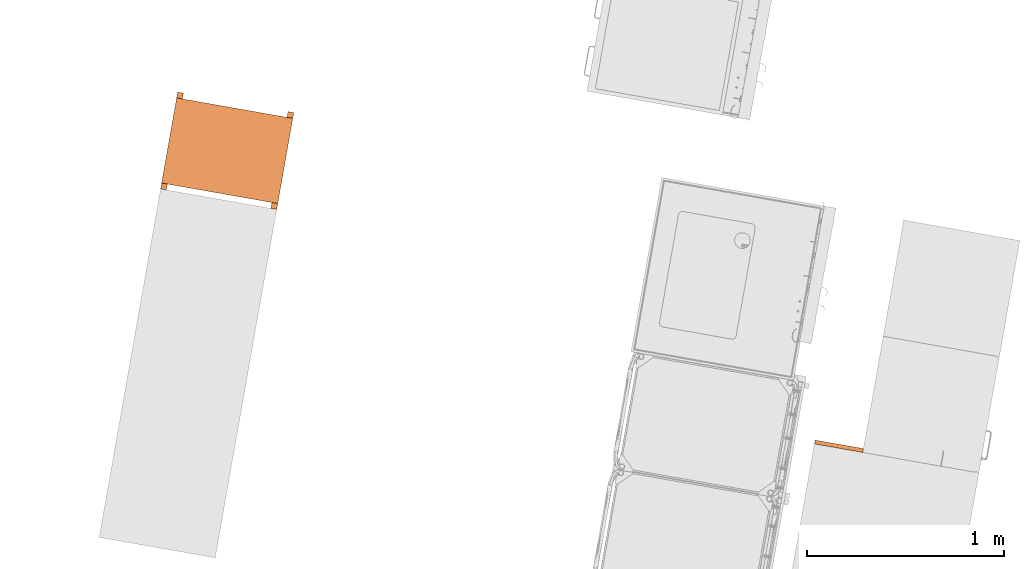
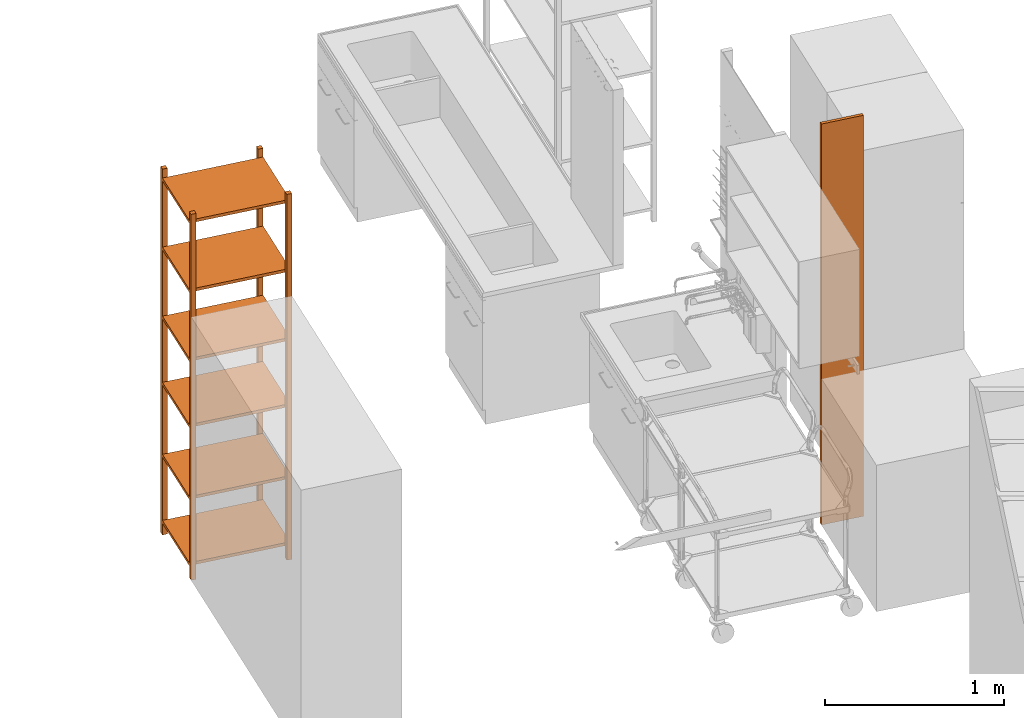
# One storey, part 16 of 32: 2 proxies.
"""IFC2X3 building model written with IfcOpenShell, lengths in metres."""

from ifc_helpers import new_model, entity, si_unit, converted_unit, derived_unit, direction, frame, frame_2d, origin, origin_2d_with_axis, place, context, subcontext, project, spatial, rectangle, extrude, source, transform, mapped, material, material_list, type_object, type_shapes, element, save


model = new_model("IFC2X3")

# Units and contexts
model_context = context("Model", 3, precision=1e-05, world=origin(), true_north=direction((6.12303176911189e-17, 1.0)))
body_context = subcontext(model_context, "Body", "Model", "MODEL_VIEW")
ifc_project = project(units=[si_unit("LENGTHUNIT", "METRE"), si_unit("AREAUNIT", "SQUARE_METRE"), si_unit("VOLUMEUNIT", "CUBIC_METRE"), converted_unit("PLANEANGLEUNIT", "DEGREE", entity("IfcRatioMeasure", 0.0174532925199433), si_unit("PLANEANGLEUNIT", "RADIAN"), dimensions=[0, 0, 0, 0, 0, 0, 0]), si_unit("MASSUNIT", "GRAM", prefix="KILO"), derived_unit("MASSDENSITYUNIT", [(si_unit("MASSUNIT", "GRAM", prefix="KILO"), 1), (si_unit("LENGTHUNIT", "METRE"), -3)]), derived_unit("MOMENTOFINERTIAUNIT", [(si_unit("LENGTHUNIT", "METRE"), 4)]), si_unit("TIMEUNIT", "SECOND"), si_unit("FREQUENCYUNIT", "HERTZ"), si_unit("THERMODYNAMICTEMPERATUREUNIT", "DEGREE_CELSIUS"), derived_unit("THERMALTRANSMITTANCEUNIT", [(si_unit("MASSUNIT", "GRAM", prefix="KILO"), 1), (si_unit("THERMODYNAMICTEMPERATUREUNIT", "KELVIN"), -1), (si_unit("TIMEUNIT", "SECOND"), -3)]), derived_unit("VOLUMETRICFLOWRATEUNIT", [(si_unit("LENGTHUNIT", "METRE"), 3), (si_unit("TIMEUNIT", "SECOND"), -1)]), si_unit("ELECTRICCURRENTUNIT", "AMPERE"), si_unit("ELECTRICVOLTAGEUNIT", "VOLT"), si_unit("POWERUNIT", "WATT"), si_unit("FORCEUNIT", "NEWTON", prefix="KILO"), si_unit("ILLUMINANCEUNIT", "LUX"), si_unit("LUMINOUSFLUXUNIT", "LUMEN"), si_unit("LUMINOUSINTENSITYUNIT", "CANDELA"), derived_unit("USERDEFINED", [(si_unit("MASSUNIT", "GRAM", prefix="KILO"), -1), (si_unit("LENGTHUNIT", "METRE"), -2), (si_unit("TIMEUNIT", "SECOND"), 3), (si_unit("LUMINOUSFLUXUNIT", "LUMEN"), 1)]), derived_unit("LINEARVELOCITYUNIT", [(si_unit("LENGTHUNIT", "METRE"), 1), (si_unit("TIMEUNIT", "SECOND"), -1)]), si_unit("PRESSUREUNIT", "PASCAL"), derived_unit("USERDEFINED", [(si_unit("LENGTHUNIT", "METRE"), -2), (si_unit("MASSUNIT", "GRAM", prefix="KILO"), 1), (si_unit("TIMEUNIT", "SECOND"), -2)]), derived_unit("LINEARFORCEUNIT", [(si_unit("MASSUNIT", "GRAM", prefix="KILO"), 1), (si_unit("LENGTHUNIT", "METRE"), 1), (si_unit("TIMEUNIT", "SECOND"), -2), (si_unit("LENGTHUNIT", "METRE"), -1)]), derived_unit("PLANARFORCEUNIT", [(si_unit("MASSUNIT", "GRAM", prefix="KILO"), 1), (si_unit("LENGTHUNIT", "METRE"), 1), (si_unit("TIMEUNIT", "SECOND"), -2), (si_unit("LENGTHUNIT", "METRE"), -2)])], contexts=[model_context])

# Site, building, storey
site_placement = place(None, origin())
site = spatial("IfcSite", under=ifc_project, at=site_placement, Name="Default", CompositionType="ELEMENT")
building_placement = place(site_placement, origin())
building = spatial("IfcBuilding", under=site, at=building_placement, CompositionType="ELEMENT")
storey_placement = place(building_placement, origin())
storey = spatial("IfcBuildingStorey", under=building, at=storey_placement, Name="00 EG", CompositionType="ELEMENT", Elevation=0.0)

# Proxies
ifc_material_1 = material(Name="dh_Weiß")
building_element_proxy_type_1 = type_object("IfcBuildingElementProxyType", Name="dh_Blende:dh_Blende", PredefinedType="NOTDEFINED", material=ifc_material_1)
shared_shape_1 = source(origin(), body_context, "Body", "SweptSolid", [
    extrude(rectangle(XDim=0.250000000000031, YDim=0.02, at=origin_2d_with_axis()), frame((0.0, -0.00999999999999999, 0.0), z_axis=(0.0, 0.0, 1.0), x_axis=(-1.0, 0.0, 0.0)), (0.0, 0.0, 1.0), 2.74),
])
type_shapes(building_element_proxy_type_1, [shared_shape_1])
proxy_1_placement = place(storey_placement, frame((27.5660998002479, 17.3435446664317, 0.0), z_axis=(0.0, 0.0, 1.0), x_axis=(0.984807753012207, -0.173648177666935, 0.0)))
element("IfcBuildingElementProxy", 1, at=proxy_1_placement, inside=storey, type_object=building_element_proxy_type_1, material=ifc_material_1, Name="dh_Blende:dh_Blende", ObjectType="dh_Blende:dh_Blende", context=body_context, shape_type="MappedRepresentation", body=[
    mapped(shared_shape_1, transform((0.0, 0.0, 0.0), scale=1.0)),
])
ifc_material_2 = material(Name="Aluminium")
ifc_material_3 = material(Name="UHMW, schwarz")
ifc_material_list_1 = material_list([ifc_material_2, ifc_material_3])
ifc_material_list_2 = material_list([ifc_material_3, ifc_material_2])
building_element_proxy_type_2 = type_object("IfcBuildingElementProxyType", Name="dh_Stahlregal:Stahlregal-FB6-60", PredefinedType="NOTDEFINED", material=ifc_material_list_2)
shared_shape_2 = source(origin(), body_context, "Body", "SweptSolid", [
    extrude(rectangle(XDim=0.44, YDim=0.599999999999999, at=origin_2d_with_axis()), frame((0.0, -0.25, 0.0800000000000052), z_axis=(0.0, 0.0, 1.0), x_axis=(0.0, 1.0, 0.0)), (0.0, 0.0, 1.0), 0.0199999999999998),
    extrude(rectangle(XDim=0.44, YDim=0.599999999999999, at=origin_2d_with_axis()), frame((0.0, -0.25, 0.531999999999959), z_axis=(0.0, 0.0, 1.0), x_axis=(0.0, 1.0, 0.0)), (0.0, 0.0, 1.0), 0.0199999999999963),
    extrude(rectangle(XDim=0.44, YDim=0.599999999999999, at=origin_2d_with_axis()), frame((0.0, -0.25, 1.02399999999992), z_axis=(0.0, 0.0, 1.0), x_axis=(0.0, 1.0, 0.0)), (0.0, 0.0, 1.0), 0.0199999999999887),
    extrude(rectangle(XDim=0.44, YDim=0.599999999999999, at=origin_2d_with_axis()), frame((0.0, -0.25, 1.47599999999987), z_axis=(0.0, 0.0, 1.0), x_axis=(0.0, 1.0, 0.0)), (0.0, 0.0, 1.0), 0.0200000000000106),
    extrude(rectangle(XDim=0.44, YDim=0.599999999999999, at=origin_2d_with_axis()), frame((0.0, -0.25, 1.94799999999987), z_axis=(0.0, 0.0, 1.0), x_axis=(0.0, 1.0, 0.0)), (0.0, 0.0, 1.0), 0.020000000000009),
    extrude(rectangle(XDim=0.44, YDim=0.6, at=origin_2d_with_axis()), frame((0.0, -0.25, 2.4199999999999), z_axis=(0.0, 0.0, 1.0), x_axis=(0.0, 1.0, 0.0)), (0.0, 0.0, 1.0), 0.0199999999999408),
    extrude(rectangle(XDim=0.0299999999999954, YDim=0.0299999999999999, at=frame_2d((1.73472347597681e-17, 0.0), x_axis=(1.0, 0.0))), frame((-0.285000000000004, -0.485, 2.49499999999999)), (0.0, 0.0, 1.0), 0.00500000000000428),
    extrude(rectangle(XDim=0.0300000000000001, YDim=0.030000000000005, at=origin_2d_with_axis()), frame((0.284999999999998, -0.015, 2.49499999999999), z_axis=(0.0, 0.0, 1.0), x_axis=(0.0, 1.0, 0.0)), (0.0, 0.0, 1.0), 0.00500000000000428),
    extrude(rectangle(XDim=0.0299999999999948, YDim=0.03, at=frame_2d((1.73472347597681e-17, 0.0), x_axis=(1.0, 0.0))), frame((-0.285000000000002, -0.015, 2.49499999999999)), (0.0, 0.0, 1.0), 0.00500000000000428),
    extrude(rectangle(XDim=0.0300000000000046, YDim=0.0299999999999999, at=origin_2d_with_axis()), frame((0.284999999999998, -0.485, 2.49499999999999)), (0.0, 0.0, 1.0), 0.00500000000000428),
    extrude(rectangle(XDim=0.03, YDim=0.0299999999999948, at=frame_2d((0.0, -1.73472347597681e-17), x_axis=(1.0, 0.0))), frame((-0.285000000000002, -0.015, 0.00499999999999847), z_axis=(0.0, 0.0, 1.0), x_axis=(0.0, -1.0, 0.0)), (0.0, 0.0, 1.0), 2.49),
    extrude(rectangle(XDim=0.0299999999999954, YDim=0.0299999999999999, at=frame_2d((1.73472347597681e-17, 0.0), x_axis=(1.0, 0.0))), frame((-0.285000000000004, -0.485, 0.00499999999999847)), (0.0, 0.0, 1.0), 2.49),
    extrude(rectangle(XDim=0.030000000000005, YDim=0.0300000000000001, at=origin_2d_with_axis()), frame((0.284999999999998, -0.015, 0.00499999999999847)), (0.0, 0.0, 1.0), 2.49),
    extrude(rectangle(XDim=0.0299999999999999, YDim=0.0300000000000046, at=origin_2d_with_axis()), frame((0.284999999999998, -0.485, 0.00499999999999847), z_axis=(0.0, 0.0, 1.0), x_axis=(0.0, 1.0, 0.0)), (0.0, 0.0, 1.0), 2.49),
    extrude(rectangle(XDim=0.0300000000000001, YDim=0.030000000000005, at=origin_2d_with_axis()), frame((0.284999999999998, -0.015, 0.0), z_axis=(0.0, 0.0, 1.0), x_axis=(0.0, -1.0, 0.0)), (0.0, 0.0, 1.0), 0.005),
    extrude(rectangle(XDim=0.0299999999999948, YDim=0.03, at=frame_2d((-1.73472347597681e-17, 0.0), x_axis=(1.0, 0.0))), frame((-0.285000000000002, -0.015, 0.0), z_axis=(0.0, 0.0, 1.0), x_axis=(-1.0, 0.0, 0.0)), (0.0, 0.0, 1.0), 0.005),
    extrude(rectangle(XDim=0.0299999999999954, YDim=0.0299999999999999, at=frame_2d((-1.73472347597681e-17, 0.0), x_axis=(1.0, 0.0))), frame((-0.285000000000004, -0.485, 0.0), z_axis=(0.0, 0.0, 1.0), x_axis=(-1.0, 0.0, 0.0)), (0.0, 0.0, 1.0), 0.005),
    extrude(rectangle(XDim=0.0299999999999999, YDim=0.0300000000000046, at=origin_2d_with_axis()), frame((0.284999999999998, -0.485, 0.0), z_axis=(0.0, 0.0, 1.0), x_axis=(0.0, -1.0, 0.0)), (0.0, 0.0, 1.0), 0.005),
])
type_shapes(building_element_proxy_type_2, [shared_shape_2])
proxy_2_placement = place(storey_placement, frame((24.4965188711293, 19.0829980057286, 0.0), z_axis=(0.0, 0.0, 1.0), x_axis=(0.984807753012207, -0.173648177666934, 0.0)))
element("IfcBuildingElementProxy", 2, at=proxy_2_placement, inside=storey, type_object=building_element_proxy_type_2, material=ifc_material_list_1, Name="dh_Stahlregal:Stahlregal-FB6-60", ObjectType="dh_Stahlregal:Stahlregal-FB6-60", context=body_context, shape_type="MappedRepresentation", body=[
    mapped(shared_shape_2, transform((0.0, 0.0, 0.0), scale=1.0)),
])

save(model, "model.ifc")
